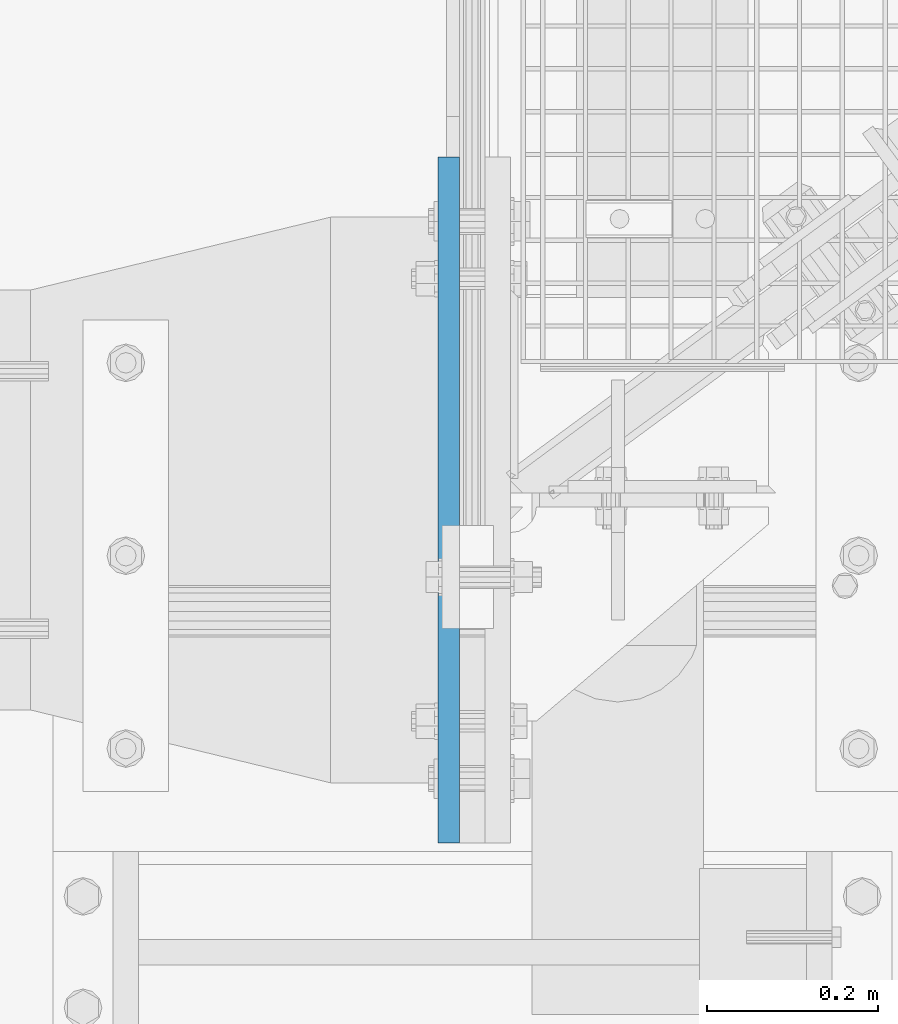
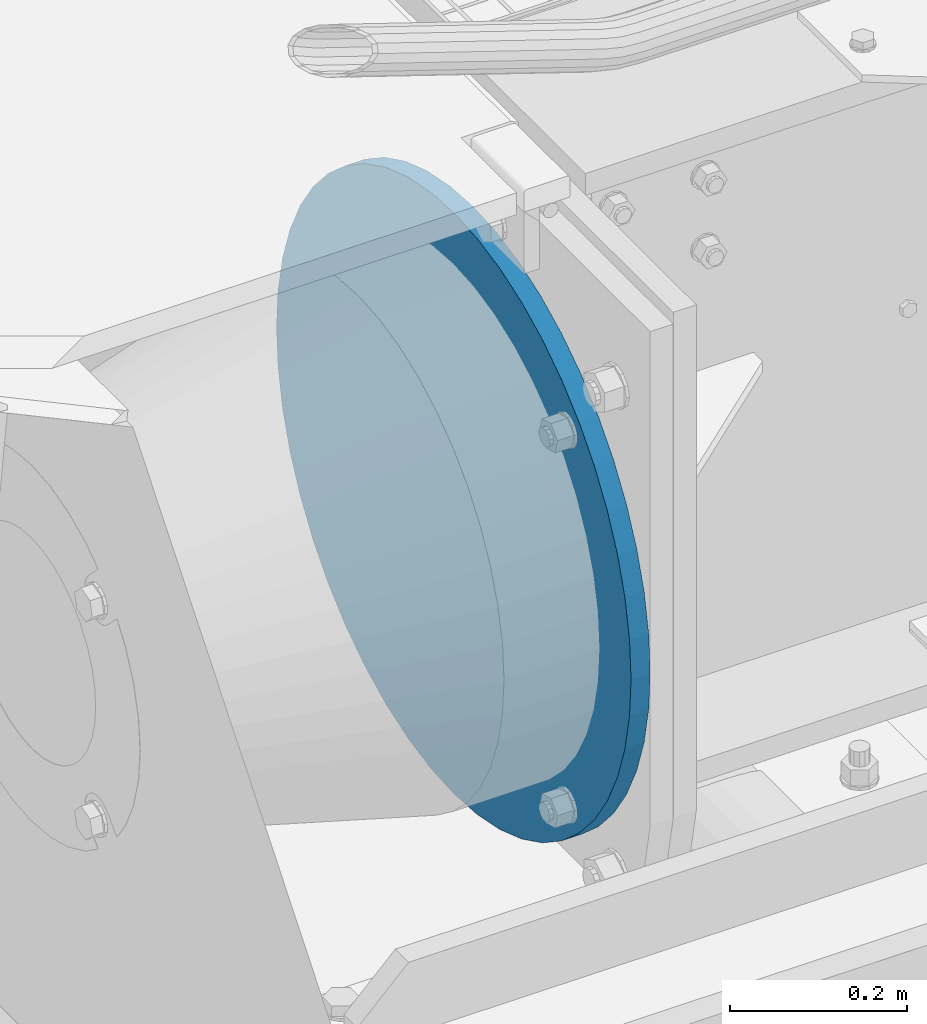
# One storey, part 111 of 1530: 1 beam.
"""IFC2X3 building model written with IfcOpenShell, lengths in millimetres."""

from ifc_helpers import new_model, si_unit, frame, origin_with_axes, place, context, subcontext, project, spatial, faceted_brep, material, type_object, element, save


model = new_model("IFC2X3")

# Units and contexts
model_context = context("Model", 3, precision=1e-05, world=origin_with_axes())
body_context = subcontext(model_context, "Body", "Model", "MODEL_VIEW")
ifc_project = project(units=[si_unit("LENGTHUNIT", "METRE", prefix="MILLI"), si_unit("AREAUNIT", "SQUARE_METRE"), si_unit("VOLUMEUNIT", "CUBIC_METRE"), si_unit("MASSUNIT", "GRAM", prefix="KILO"), si_unit("TIMEUNIT", "SECOND"), si_unit("PLANEANGLEUNIT", "RADIAN"), si_unit("SOLIDANGLEUNIT", "STERADIAN"), si_unit("THERMODYNAMICTEMPERATUREUNIT", "DEGREE_CELSIUS"), si_unit("LUMINOUSINTENSITYUNIT", "LUMEN")], contexts=[model_context])

# Site, building, storey
site_placement = place(None, origin_with_axes())
site = spatial("IfcSite", under=ifc_project, at=site_placement, Name="Brattvåg", CompositionType="ELEMENT")
building_placement = place(site_placement, origin_with_axes())
building = spatial("IfcBuilding", under=site, at=building_placement, Name="Undefined", CompositionType="ELEMENT")
storey_placement = place(building_placement, origin_with_axes())
storey = spatial("IfcBuildingStorey", under=building, at=storey_placement, Name="Undefined", CompositionType="ELEMENT", Elevation=0.0)

# Beam
ifc_material = material(Name="MISCELLANEOUS/NULLVEKT")
beam_type = type_object("IfcBeamType", Name="D800", PredefinedType="NOTDEFINED")
beam_placement = place(storey_placement, frame((-50.0046202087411, -0.00280807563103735, -515.000125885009), z_axis=(0.0, 0.0, 1.0), x_axis=(-1.0, 1.99999855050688e-09, 0.0)))
element("IfcBeam", 1, at=beam_placement, inside=storey, type_object=beam_type, material=ifc_material, Name="STÅLBJELKE", context=body_context, shape_type="Brep", body=[
    faceted_brep([(0.0, -400.0, 0.0), (0.0, -396.577944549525, -52.210476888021), (25.0, -396.577944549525, -52.210476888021), (25.0, -400.0, 0.0), (0.0, -386.370330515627, -103.527618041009), (25.0, -386.370330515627, -103.527618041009), (0.0, -369.551813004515, -153.073372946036), (25.0, -369.551813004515, -153.073372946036), (0.0, -346.410161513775, -200.0), (25.0, -346.410161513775, -200.0), (0.0, -317.341336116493, -243.504571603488), (25.0, -317.341336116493, -243.504571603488), (0.0, -282.842712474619, -282.842712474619), (25.0, -282.842712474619, -282.842712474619), (0.0, -243.504571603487, -317.341336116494), (25.0, -243.504571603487, -317.341336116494), (0.0, -200.0, -346.410161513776), (25.0, -200.0, -346.410161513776), (0.0, -153.073372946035, -369.551813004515), (25.0, -153.073372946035, -369.551813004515), (0.0, -103.527618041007, -386.370330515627), (25.0, -103.527618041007, -386.370330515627), (0.0, -52.2104768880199, -396.577944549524), (25.0, -52.2104768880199, -396.577944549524), (0.0, 0.0, -400.0), (25.0, 0.0, -400.0), (0.0, 52.2104768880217, -396.577944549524), (25.0, 52.2104768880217, -396.577944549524), (0.0, 103.527618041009, -386.370330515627), (25.0, 103.527618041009, -386.370330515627), (0.0, 153.073372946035, -369.551813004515), (25.0, 153.073372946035, -369.551813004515), (0.0, 200.0, -346.410161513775), (25.0, 200.0, -346.410161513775), (0.0, 243.504571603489, -317.341336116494), (25.0, 243.504571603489, -317.341336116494), (0.0, 282.842712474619, -282.842712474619), (25.0, 282.842712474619, -282.842712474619), (0.0, 317.341336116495, -243.504571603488), (25.0, 317.341336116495, -243.504571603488), (0.0, 346.410161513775, -200.0), (25.0, 346.410161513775, -200.0), (0.0, 369.551813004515, -153.073372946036), (25.0, 369.551813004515, -153.073372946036), (0.0, 386.370330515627, -103.527618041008), (25.0, 386.370330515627, -103.527618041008), (0.0, 396.577944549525, -52.2104768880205), (25.0, 396.577944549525, -52.2104768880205), (0.0, 400.0, 0.0), (25.0, 400.0, 0.0), (0.0, 396.577944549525, 52.2104768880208), (25.0, 396.577944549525, 52.2104768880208), (0.0, 386.370330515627, 103.527618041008), (25.0, 386.370330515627, 103.527618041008), (0.0, 369.551813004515, 153.073372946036), (25.0, 369.551813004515, 153.073372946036), (0.0, 346.410161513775, 200.0), (25.0, 346.410161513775, 200.0), (0.0, 317.341336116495, 243.504571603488), (25.0, 317.341336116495, 243.504571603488), (0.0, 282.842712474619, 282.842712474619), (25.0, 282.842712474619, 282.842712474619), (0.0, 243.504571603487, 317.341336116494), (25.0, 243.504571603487, 317.341336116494), (0.0, 200.0, 346.410161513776), (25.0, 200.0, 346.410161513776), (0.0, 153.073372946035, 369.551813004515), (25.0, 153.073372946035, 369.551813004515), (0.0, 103.527618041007, 386.370330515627), (25.0, 103.527618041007, 386.370330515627), (0.0, 52.2104768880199, 396.577944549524), (25.0, 52.2104768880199, 396.577944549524), (0.0, 0.0, 400.0), (25.0, 0.0, 400.0), (0.0, -52.2104768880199, 396.577944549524), (25.0, -52.2104768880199, 396.577944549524), (0.0, -103.527618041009, 386.370330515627), (25.0, -103.527618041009, 386.370330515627), (0.0, -153.073372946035, 369.551813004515), (25.0, -153.073372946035, 369.551813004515), (0.0, -200.0, 346.410161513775), (25.0, -200.0, 346.410161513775), (0.0, -243.504571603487, 317.341336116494), (25.0, -243.504571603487, 317.341336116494), (0.0, -282.842712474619, 282.842712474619), (25.0, -282.842712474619, 282.842712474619), (0.0, -317.341336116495, 243.504571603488), (25.0, -317.341336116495, 243.504571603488), (0.0, -346.410161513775, 200.0), (25.0, -346.410161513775, 200.0), (0.0, -369.551813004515, 153.073372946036), (25.0, -369.551813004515, 153.073372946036), (0.0, -386.370330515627, 103.527618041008), (25.0, -386.370330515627, 103.527618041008), (0.0, -396.577944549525, 52.2104768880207), (25.0, -396.577944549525, 52.2104768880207)], [[[0, 1, 2, 3]], [[1, 4, 5, 2]], [[4, 6, 7, 5]], [[6, 8, 9, 7]], [[8, 10, 11, 9]], [[10, 12, 13, 11]], [[12, 14, 15, 13]], [[14, 16, 17, 15]], [[16, 18, 19, 17]], [[18, 20, 21, 19]], [[20, 22, 23, 21]], [[22, 24, 25, 23]], [[24, 26, 27, 25]], [[26, 28, 29, 27]], [[28, 30, 31, 29]], [[30, 32, 33, 31]], [[32, 34, 35, 33]], [[34, 36, 37, 35]], [[36, 38, 39, 37]], [[38, 40, 41, 39]], [[40, 42, 43, 41]], [[42, 44, 45, 43]], [[44, 46, 47, 45]], [[46, 48, 49, 47]], [[48, 50, 51, 49]], [[50, 52, 53, 51]], [[52, 54, 55, 53]], [[54, 56, 57, 55]], [[56, 58, 59, 57]], [[58, 60, 61, 59]], [[60, 62, 63, 61]], [[62, 64, 65, 63]], [[64, 66, 67, 65]], [[66, 68, 69, 67]], [[68, 70, 71, 69]], [[70, 72, 73, 71]], [[72, 74, 75, 73]], [[74, 76, 77, 75]], [[76, 78, 79, 77]], [[78, 80, 81, 79]], [[80, 82, 83, 81]], [[82, 84, 85, 83]], [[84, 86, 87, 85]], [[86, 88, 89, 87]], [[88, 90, 91, 89]], [[90, 92, 93, 91]], [[92, 94, 95, 93]], [[94, 0, 3, 95]], [[5, 7, 9, 11, 13, 15, 17, 19, 21, 23, 25, 27, 29, 31, 33, 35, 37, 39, 41, 43, 45, 47, 49, 51, 53, 55, 57, 59, 61, 63, 65, 67, 69, 71, 73, 75, 77, 79, 81, 83, 85, 87, 89, 91, 93, 95, 3, 2]], [[94, 92, 90, 88, 86, 84, 82, 80, 78, 76, 74, 72, 70, 68, 66, 64, 62, 60, 58, 56, 54, 52, 50, 48, 46, 44, 42, 40, 38, 36, 34, 32, 30, 28, 26, 24, 22, 20, 18, 16, 14, 12, 10, 8, 6, 4, 1, 0]]]),
])

save(model, "model.ifc")
